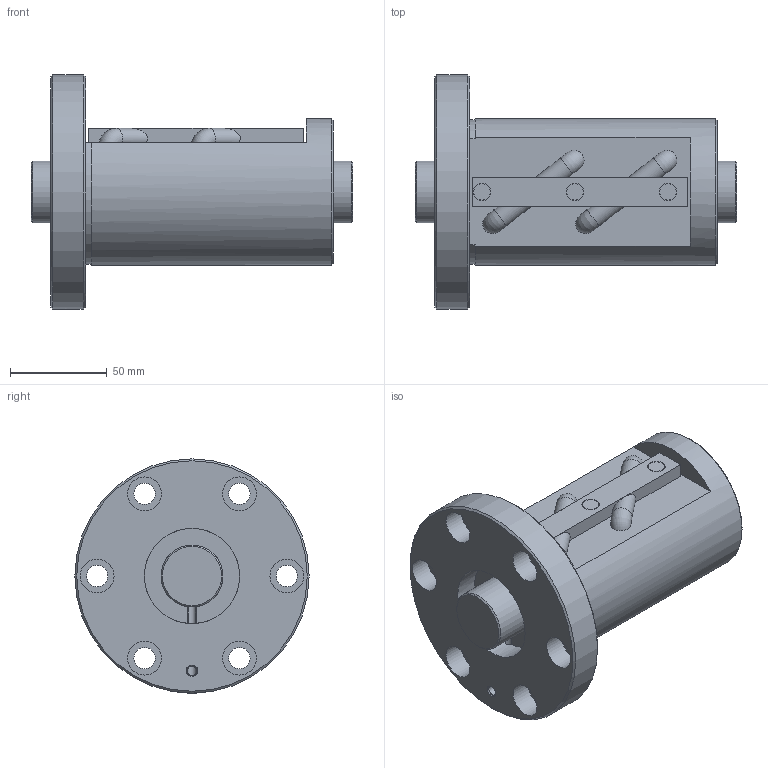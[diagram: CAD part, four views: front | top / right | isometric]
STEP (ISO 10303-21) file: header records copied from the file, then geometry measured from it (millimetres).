
FILE_DESCRIPTION(/* description */ ('STEP AP203'),/* implementation_level */ '2;1');
FILE_NAME(/* name */ 'BIF3212V-7RRG0+166LC0_000',/* time_stamp */ '2024-07-15T08:23:28+02:00',/* author */ ('License CC BY-ND 4.0'),/* organization */ ('CADENAS'),/* preprocessor_version */ 'ST-DEVELOPER v19.3',/* originating_system */ 'PARTsolutions',/* authorisation */ ' ');
FILE_SCHEMA (('CONFIG_CONTROL_DESIGN'));
Length unit declared in the file: millimetre
Products named in the file (3): BIF3212V-7RRG0+166LC0_000; BIF3212V-7RR000 Shaft; BIF3212V-7RR Nut
Assembly tree (2 placements, depth 2):
  BIF3212V-7RRG0+166LC0_000
    BIF3212V-7RR000 Shaft
    BIF3212V-7RR Nut
Bounding box: 166 x 121 x 121 mm (x, y, z)
Volume: 716036.3 mm3; surface area: 100212.3 mm2
Topology: 2 solids, 2 shells, 87 faces, 191 edges, 122 vertices
Faces by surface type: plane 43, cylinder 32, cone 8, torus 4
Full cylindrical faces by diameter (mm): 4.25 x2, 4.917 x1, 8.5 x3, 9.1 x3, 11 x6, 17.5 x6, 32 x2, 49.2 x2, 76 x1, 121 x1
Entity records: 2332 total; most frequent: CARTESIAN_POINT 444, DIRECTION 408, ORIENTED_EDGE 294, AXIS2_PLACEMENT_3D 182, EDGE_LOOP 152, FACE_BOUND 152, EDGE_CURVE 147, VERTEX_POINT 113
